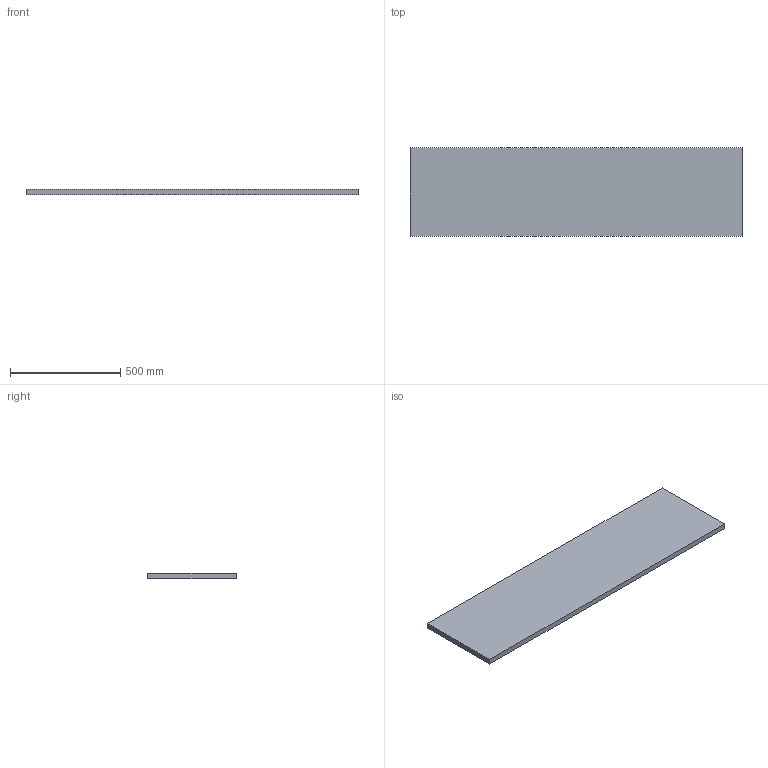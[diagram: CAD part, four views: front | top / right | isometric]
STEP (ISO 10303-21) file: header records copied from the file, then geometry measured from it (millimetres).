
FILE_DESCRIPTION (( 'STEP AP214' ), '1' );
FILE_NAME ('PCOPE0011.STEP', '2025-01-23T10:16:08', ( '' ), ( '' ), 'SwSTEP 2.0', 'SolidWorks 2022', '' );
FILE_SCHEMA (( 'AUTOMOTIVE_DESIGN' ));
Length unit declared in the file: millimetre
Products named in the file (1): PCOPE0011
Bounding box: 1505 x 400 x 25 mm (x, y, z)
Volume: 15050000 mm3; surface area: 1299250 mm2
Topology: 1 solids, 1 shells, 6 faces, 12 edges, 8 vertices
Faces by surface type: plane 6
Entity records: 190 total; most frequent: CARTESIAN_POINT 27, DIRECTION 26, ORIENTED_EDGE 24, VECTOR 12, EDGE_CURVE 12, LINE 12, VERTEX_POINT 8, AXIS2_PLACEMENT_3D 7
